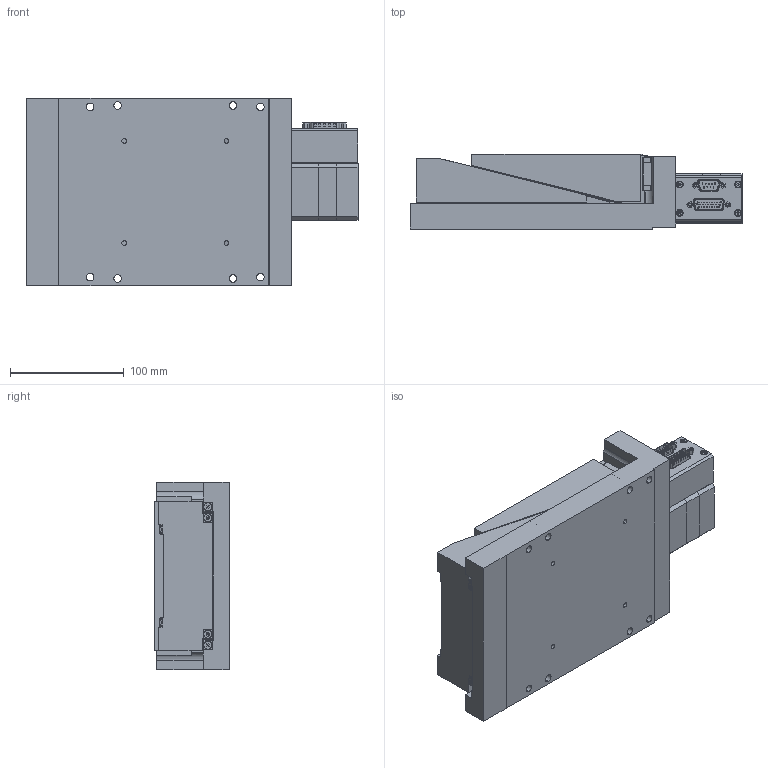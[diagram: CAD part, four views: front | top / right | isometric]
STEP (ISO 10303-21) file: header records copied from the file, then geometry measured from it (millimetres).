
FILE_DESCRIPTION (( 'STEP AP214' ), '1' );
FILE_NAME ('ELV-012-No Brake-EXPORT.STEP', '2026-06-09T19:58:33', ( 'lab' ), ( '' ), 'SwSTEP 2.0', 'SolidWorks 2018', '' );
FILE_SCHEMA (( 'AUTOMOTIVE_DESIGN' ));
Length unit declared in the file: millimetre
Products named in the file (13): 1000008_file_export7; 1000003_file_export1; 1000007_file_export6; 1000013_file_export15; 1000009_file_export8; 1000002_file_export3; 1000010_file_export20; 1000011_file_export21; 1000001_file_export2; 1000012_file_export14; 1000004_file_export5; 1000011_file_export22; ELV-012-No Brake-EXPORT
Assembly tree (21 placements, depth 2):
  ELV-012-No Brake-EXPORT
    1000001_file_export2
    1000002_file_export3
    1000003_file_export1
    1000004_file_export5
    1000007_file_export6
    1000008_file_export7
    1000009_file_export8
    1000010_file_export20  x4
    1000011_file_export21  x4
    1000011_file_export22  x4
    1000012_file_export14
    1000013_file_export15
Bounding box: 292.4 x 66 x 165 mm (x, y, z)
Volume: 2258753 mm3; surface area: 349628.5 mm2
Topology: 88 solids, 88 shells, 2257 faces, 5241 edges, 3246 vertices
Faces by surface type: plane 1577, cylinder 358, bspline 170, cone 152
Entity records: 60117 total; most frequent: CARTESIAN_POINT 14664, ORIENTED_EDGE 8046, DIRECTION 7901, EDGE_CURVE 4023, VECTOR 2815, LINE 2815, VERTEX_POINT 2562, AXIS2_PLACEMENT_3D 2543
